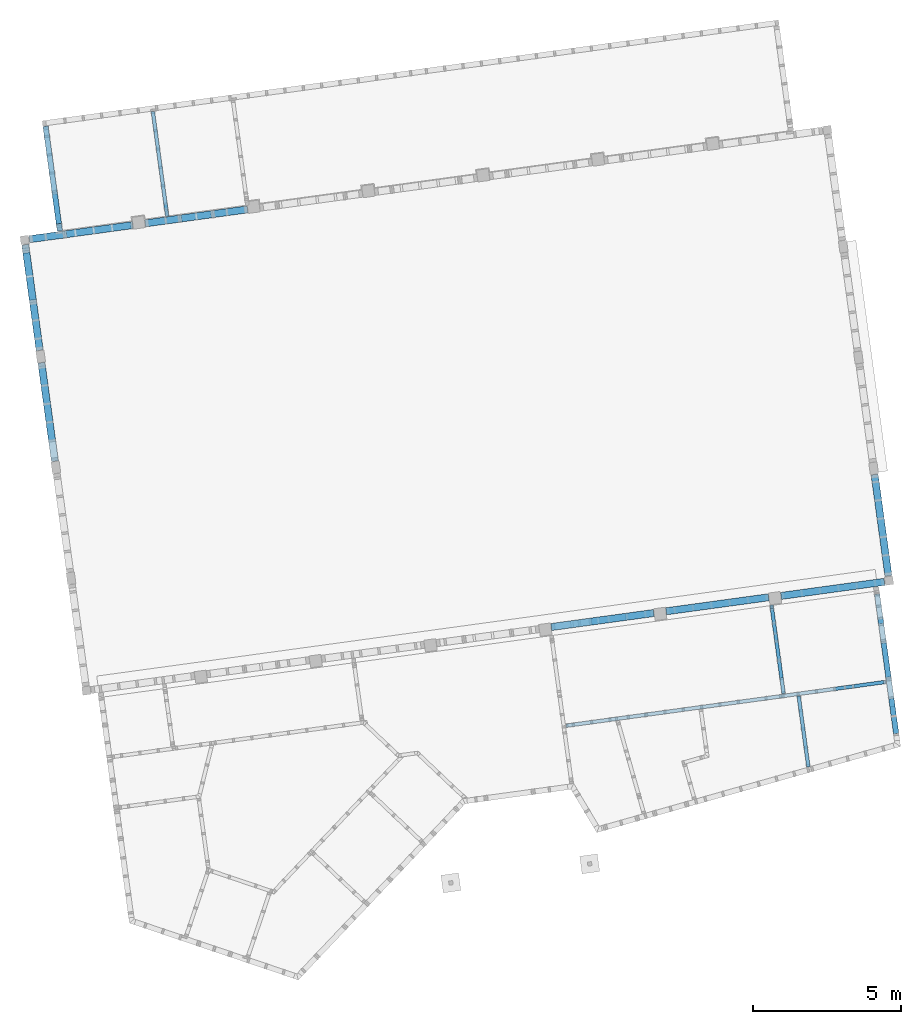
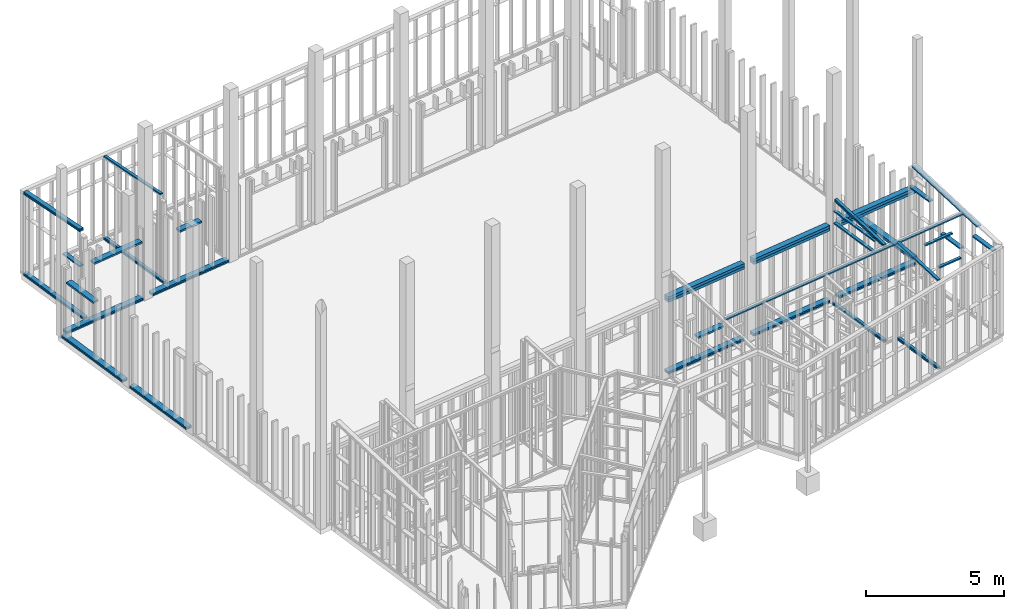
# One storey, part 12 of 24: 50 beams.
"""IFC2X3 building model written with IfcOpenShell, lengths in metres."""

from ifc_helpers import new_model, entity, si_unit, converted_unit, derived_unit, money_unit, direction, frame, frame_2d, origin_with_axes, place, context, subcontext, project, spatial, rectangle, extrude, clip, halfspace, material, type_object, element, save


model = new_model("IFC2X3")

# Units and contexts
model_context = context("Model", 3, precision=1e-05, world=origin_with_axes(), true_north=direction((0.0, 1.0)))
body_context = subcontext(model_context, "Body", "Model", "MODEL_VIEW")
ifc_project = project(units=[si_unit("LENGTHUNIT", "METRE"), si_unit("AREAUNIT", "SQUARE_METRE"), si_unit("VOLUMEUNIT", "CUBIC_METRE"), converted_unit("PLANEANGLEUNIT", "DEGREE", entity("IfcPlaneAngleMeasure", 0.0174532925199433), si_unit("PLANEANGLEUNIT", "RADIAN"), dimensions=[0, 0, 0, 0, 0, 0, 0]), money_unit("EUR"), converted_unit("TIMEUNIT", "Year", entity("IfcTimeMeasure", 31557600.0), si_unit("TIMEUNIT", "SECOND"), dimensions=[0, 0, 1, 0, 0, 0, 0]), si_unit("MASSUNIT", "GRAM", prefix="KILO"), si_unit("THERMODYNAMICTEMPERATUREUNIT", "DEGREE_CELSIUS"), si_unit("LUMINOUSINTENSITYUNIT", "LUMEN"), si_unit("ENERGYUNIT", "JOULE", prefix="MEGA"), derived_unit("THERMALCONDUCTANCEUNIT", [(si_unit("POWERUNIT", "WATT"), 1), (si_unit("LENGTHUNIT", "METRE"), -1), (si_unit("THERMODYNAMICTEMPERATUREUNIT", "KELVIN"), -1)]), derived_unit("SPECIFICHEATCAPACITYUNIT", [(si_unit("ENERGYUNIT", "JOULE"), 1), (si_unit("MASSUNIT", "GRAM", prefix="KILO"), -1), (si_unit("THERMODYNAMICTEMPERATUREUNIT", "KELVIN"), -1)]), derived_unit("MASSDENSITYUNIT", [(si_unit("MASSUNIT", "GRAM", prefix="KILO"), 1), (si_unit("VOLUMEUNIT", "CUBIC_METRE"), -1)])], contexts=[model_context])

# Site, building, storey
site_placement = place(None, origin_with_axes())
site = spatial("IfcSite", under=ifc_project, at=site_placement, Name="Gelände", CompositionType="ELEMENT")
building_placement = place(site_placement, origin_with_axes())
building = spatial("IfcBuilding", under=site, at=building_placement, Name="Gebäude", CompositionType="ELEMENT")
storey_placement = place(building_placement, origin_with_axes())
storey = spatial("IfcBuildingStorey", under=building, at=storey_placement, Name="EG", CompositionType="ELEMENT", Elevation=0.0)

# Beams
ifc_material_1 = material(Name="Bauholz")
beam_type_1 = type_object("IfcBeamType", Name="Bauholz 120 x 60", PredefinedType="NOTDEFINED")
beam_1_placement = place(storey_placement, frame((113.1367541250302, -150.7817558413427, 3.450580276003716), z_axis=(0.0, 0.0, 1.0), x_axis=(-0.1357111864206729, 0.9907484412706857, 0.0)))
element("IfcBeam", 1, at=beam_1_placement, inside=storey, type_object=beam_type_1, material=ifc_material_1, Name="Unterzug-021", context=body_context, shape_type="SweptSolid", body=[
    extrude(rectangle(XDim=0.06, YDim=0.12, at=frame_2d((-0.03, 0.0), x_axis=(1.0, 0.0))), frame((0.0, 0.0, 0.0), z_axis=(0.0, 1.0, 0.0), x_axis=(0.0, 0.0, 1.0)), (0.0, 0.0, 1.0), 1.252195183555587),
])
beam_2_placement = place(storey_placement, frame((113.5160197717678, -150.7298199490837, 2.195), z_axis=(0.0, 0.0, 1.0), x_axis=(-0.1357111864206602, 0.9907484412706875, 0.0)))
element("IfcBeam", 2, at=beam_2_placement, inside=storey, type_object=beam_type_1, material=ifc_material_1, Name="Unterzug-021", context=body_context, shape_type="SweptSolid", body=[
    extrude(rectangle(XDim=0.06, YDim=0.12, at=frame_2d((-0.03, 0.0), x_axis=(1.0, 0.0))), frame((0.0, 0.0, 0.0), z_axis=(0.0, 1.0, 0.0), x_axis=(0.0, 0.0, 1.0)), (0.0, 0.0, 1.0), 1.010000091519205),
])
beam_3_placement = place(storey_placement, frame((109.7386471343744, -148.1846242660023, 4.044563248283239), z_axis=(0.0, 0.0, 1.0), x_axis=(-0.9907486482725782, -0.1357096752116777, 0.0)))
element("IfcBeam", 3, at=beam_3_placement, inside=storey, type_object=beam_type_1, material=ifc_material_1, Name="Unterzug-021", context=body_context, shape_type="SweptSolid", body=[
    extrude(rectangle(XDim=0.06, YDim=0.12, at=frame_2d((-0.03, 0.0), x_axis=(1.0, 0.0))), frame((0.0, 0.0, 0.0), z_axis=(0.0, 1.0, 0.0), x_axis=(0.0, 0.0, 1.0)), (0.0, 0.0, 1.0), 2.414999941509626),
])
beam_4_placement = place(storey_placement, frame((109.7386471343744, -148.1846242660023, 3.512563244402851), z_axis=(0.0, 0.0, 1.0), x_axis=(-0.9907486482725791, -0.1357096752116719, 0.0)))
element("IfcBeam", 4, at=beam_4_placement, inside=storey, type_object=beam_type_1, material=ifc_material_1, Name="Unterzug-021", context=body_context, shape_type="SweptSolid", body=[
    extrude(rectangle(XDim=0.06, YDim=0.12, at=frame_2d((-0.03, 0.0), x_axis=(1.0, 0.0))), frame((0.0, 0.0, 0.0), z_axis=(0.0, 1.0, 0.0), x_axis=(0.0, 0.0, 1.0)), (0.0, 0.0, 1.0), 2.414999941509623),
])
beam_5_placement = place(storey_placement, frame((109.7305045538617, -148.1251793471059, -0.04300000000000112), z_axis=(0.0, 0.0, 1.0), x_axis=(-0.9907486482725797, -0.1357096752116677, 0.0)))
element("IfcBeam", 5, at=beam_5_placement, inside=storey, type_object=beam_type_1, material=ifc_material_1, Name="Unterzug-021", context=body_context, shape_type="SweptSolid", body=[
    extrude(rectangle(XDim=0.06, YDim=0.12, at=frame_2d((-0.03, 0.0), x_axis=(1.0, 0.0))), frame((0.0, 0.0, 0.0), z_axis=(0.0, 1.0, 0.0), x_axis=(0.0, 0.0, 1.0)), (0.0, 0.0, 1.0), 3.019265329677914),
])
beam_6_placement = place(storey_placement, frame((110.6487401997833, -151.1982606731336, -0.04299999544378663), z_axis=(0.0, 0.0, 1.0), x_axis=(-0.9907486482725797, -0.1357096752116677, 0.0)))
element("IfcBeam", 6, at=beam_6_placement, inside=storey, type_object=beam_type_1, material=ifc_material_1, Name="Unterzug-021", context=body_context, shape_type="SweptSolid", body=[
    extrude(rectangle(XDim=0.06, YDim=0.12, at=frame_2d((-0.03, 0.0), x_axis=(1.0, 0.0))), frame((0.0, 0.0, 0.0), z_axis=(0.0, 1.0, 0.0), x_axis=(0.0, 0.0, 1.0)), (0.0, 0.0, 1.0), 2.413919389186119),
])
beam_7_placement = place(storey_placement, frame((110.6485577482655, -151.1969286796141, 4.156226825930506), z_axis=(0.0, 0.0, 1.0), x_axis=(-0.9907486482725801, -0.1357096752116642, 0.0)))
element("IfcBeam", 7, at=beam_7_placement, inside=storey, type_object=beam_type_1, material=ifc_material_1, Name="Unterzug-021", context=body_context, shape_type="Clipping", body=[
    clip(clip(extrude(rectangle(XDim=0.06, YDim=0.12, at=frame_2d((-0.03, 0.0), x_axis=(1.0, 0.0))), frame((0.0, -0.02361845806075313, 0.003319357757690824), z_axis=(0.0, 0.9902680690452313, -0.1391730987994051), x_axis=(0.0, 0.1391730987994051, 0.9902680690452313)), (0.0, 0.0, 1.0), 2.487701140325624), halfspace(frame((0.0, 0.0, 0.0), z_axis=(0.0, 1.0, 0.0), x_axis=(0.0, 0.0, 1.0)), True)), halfspace(frame((0.0, 2.416254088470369, 0.0), z_axis=(0.0, -1.0, 0.0), x_axis=(0.0, 0.0, -1.0)), True)),
])
beam_8_placement = place(storey_placement, frame((89.32227157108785, -134.9953332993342, 0.04999999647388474), z_axis=(0.0, 0.0, 1.0), x_axis=(0.99074844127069, 0.1357111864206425, 0.0)))
element("IfcBeam", 8, at=beam_8_placement, inside=storey, type_object=beam_type_1, material=ifc_material_1, Name="Unterzug-021", context=body_context, shape_type="SweptSolid", body=[
    extrude(rectangle(XDim=0.06, YDim=0.12, at=frame_2d((-0.03, 0.0), x_axis=(1.0, 0.0))), frame((0.0, 0.0, 0.0), z_axis=(0.0, 1.0, 0.0), x_axis=(0.0, 0.0, 1.0)), (0.0, 0.0, 1.0), 3.572499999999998),
])
ifc_material_2 = material(Name="Holz, Bauholz")
beam_type_2 = type_object("IfcBeamType", Name="Holz, Bauholz 240 x 60", PredefinedType="NOTDEFINED")
beam_9_placement = place(storey_placement, frame((113.5434566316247, -147.3379357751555, -0.02800000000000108), z_axis=(0.0, 0.0, 1.0), x_axis=(-0.1357111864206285, 0.9907484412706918, 0.0)))
element("IfcBeam", 9, at=beam_9_placement, inside=storey, type_object=beam_type_2, material=ifc_material_2, Name="Unterzug-021", context=body_context, shape_type="SweptSolid", body=[
    extrude(rectangle(XDim=0.06, YDim=0.24, at=frame_2d((-0.03, 0.0), x_axis=(1.0, 0.0))), frame((0.0, 0.0, 0.0), z_axis=(0.0, 1.0, 0.0), x_axis=(0.0, 0.0, 1.0)), (0.0, 0.0, 1.0), 3.524285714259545),
])
beam_10_placement = place(storey_placement, frame((85.07389866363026, -139.9386180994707, -0.08800000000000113), z_axis=(0.0, 0.0, 1.0), x_axis=(-0.9907484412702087, -0.1357111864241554, 0.0)))
element("IfcBeam", 10, at=beam_10_placement, inside=storey, type_object=beam_type_2, material=ifc_material_2, Name="Unterzug-021", context=body_context, shape_type="SweptSolid", body=[
    extrude(rectangle(XDim=0.06, YDim=0.24, at=frame_2d((-0.03, 0.0), x_axis=(1.0, 0.0))), frame((0.0, 0.0, 0.0), z_axis=(0.0, 1.0, 0.0), x_axis=(0.0, 0.0, 1.0)), (0.0, 0.0, 1.0), 3.359999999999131),
])
beam_11_placement = place(storey_placement, frame((92.03606593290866, -134.7598625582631, -0.08800000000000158), z_axis=(0.0, 0.0, 1.0), x_axis=(-0.1357111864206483, 0.9907484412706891, 0.0)))
element("IfcBeam", 11, at=beam_11_placement, inside=storey, type_object=beam_type_2, material=ifc_material_2, Name="Unterzug-021", context=body_context, shape_type="SweptSolid", body=[
    extrude(rectangle(XDim=0.06, YDim=0.24, at=frame_2d((-0.03, 0.0), x_axis=(1.0, 0.0))), frame((0.0, 0.0, 0.0), z_axis=(0.0, 1.0, 0.0), x_axis=(0.0, 0.0, 1.0)), (0.0, 0.0, 1.0), 3.494285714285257),
])
beam_12_placement = place(storey_placement, frame((88.15799346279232, -135.2910749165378, -0.08800000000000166), z_axis=(0.0, 0.0, 1.0), x_axis=(-0.1357111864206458, 0.9907484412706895, 0.0)))
element("IfcBeam", 12, at=beam_12_placement, inside=storey, type_object=beam_type_2, material=ifc_material_2, Name="Unterzug-021", context=body_context, shape_type="SweptSolid", body=[
    extrude(rectangle(XDim=0.06, YDim=0.24, at=frame_2d((-0.03, 0.0), x_axis=(1.0, 0.0))), frame((0.0, 0.0, 0.0), z_axis=(0.0, 1.0, 0.0), x_axis=(0.0, 0.0, 1.0)), (0.0, 0.0, 1.0), 3.524285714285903),
])
beam_13_placement = place(storey_placement, frame((105.7558928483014, -148.3920474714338, -0.08800000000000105), z_axis=(0.0, 0.0, 1.0), x_axis=(-0.1357111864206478, 0.9907484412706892, 0.0)))
element("IfcBeam", 13, at=beam_13_placement, inside=storey, type_object=beam_type_2, material=ifc_material_2, Name="Unterzug-021", context=body_context, shape_type="SweptSolid", body=[
    extrude(rectangle(XDim=0.06, YDim=0.24, at=frame_2d((-0.03, 0.0), x_axis=(1.0, 0.0))), frame((0.0, 0.0, 0.0), z_axis=(0.0, 1.0, 0.0), x_axis=(0.0, 0.0, 1.0)), (0.0, 0.0, 1.0), 3.494285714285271),
])
beam_14_placement = place(storey_placement, frame((109.6337394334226, -147.8608660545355, -0.08800000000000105), z_axis=(0.0, 0.0, 1.0), x_axis=(-0.1357111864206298, 0.9907484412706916, 0.0)))
element("IfcBeam", 14, at=beam_14_placement, inside=storey, type_object=beam_type_2, material=ifc_material_2, Name="Unterzug-021", context=body_context, shape_type="SweptSolid", body=[
    extrude(rectangle(XDim=0.06, YDim=0.24, at=frame_2d((-0.03, 0.0), x_axis=(1.0, 0.0))), frame((0.0, 0.0, 0.0), z_axis=(0.0, 1.0, 0.0), x_axis=(0.0, 0.0, 1.0)), (0.0, 0.0, 1.0), 3.494057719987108),
])
beam_15_placement = place(storey_placement, frame((85.01689996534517, -139.5225037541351, -0.08800000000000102), z_axis=(0.0, 0.0, 1.0), x_axis=(0.99074844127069, 0.1357111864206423, 0.0)))
element("IfcBeam", 15, at=beam_15_placement, inside=storey, type_object=beam_type_2, material=ifc_material_2, Name="Unterzug-021", context=body_context, shape_type="SweptSolid", body=[
    extrude(rectangle(XDim=0.06, YDim=0.24, at=frame_2d((-0.03, 0.0), x_axis=(1.0, 0.0))), frame((0.0, 0.0, 0.0), z_axis=(0.0, 1.0, 0.0), x_axis=(0.0, 0.0, 1.0)), (0.0, 0.0, 1.0), 3.604000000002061),
])
beam_type_3 = type_object("IfcBeamType", Name="Bauholz 240 x 60", PredefinedType="NOTDEFINED")
beam_16_placement = place(storey_placement, frame((113.5434566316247, -147.3379357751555, -0.08800000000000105), z_axis=(0.0, 0.0, 1.0), x_axis=(-0.1357111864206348, 0.990748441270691, 0.0)))
element("IfcBeam", 16, at=beam_16_placement, inside=storey, type_object=beam_type_3, material=ifc_material_1, Name="Unterzug-021", context=body_context, shape_type="SweptSolid", body=[
    extrude(rectangle(XDim=0.06, YDim=0.24, at=frame_2d((-0.03, 0.0), x_axis=(1.0, 0.0))), frame((0.0, 0.0, 0.0), z_axis=(0.0, 1.0, 0.0), x_axis=(0.0, 0.0, 1.0)), (0.0, 0.0, 1.0), 3.524285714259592),
])
beam_17_placement = place(storey_placement, frame((88.15799346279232, -135.2910749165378, -0.02800000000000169), z_axis=(0.0, 0.0, 1.0), x_axis=(-0.1357111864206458, 0.9907484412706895, 0.0)))
element("IfcBeam", 17, at=beam_17_placement, inside=storey, type_object=beam_type_3, material=ifc_material_1, Name="Unterzug-021", context=body_context, shape_type="SweptSolid", body=[
    extrude(rectangle(XDim=0.06, YDim=0.24, at=frame_2d((-0.03, 0.0), x_axis=(1.0, 0.0))), frame((0.0, 0.0, 0.0), z_axis=(0.0, 1.0, 0.0), x_axis=(0.0, 0.0, 1.0)), (0.0, 0.0, 1.0), 3.524285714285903),
])
beam_18_placement = place(storey_placement, frame((92.03606593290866, -134.7598625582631, -0.0280000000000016), z_axis=(0.0, 0.0, 1.0), x_axis=(-0.1357111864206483, 0.9907484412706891, 0.0)))
element("IfcBeam", 18, at=beam_18_placement, inside=storey, type_object=beam_type_3, material=ifc_material_1, Name="Unterzug-021", context=body_context, shape_type="SweptSolid", body=[
    extrude(rectangle(XDim=0.06, YDim=0.24, at=frame_2d((-0.03, 0.0), x_axis=(1.0, 0.0))), frame((0.0, 0.0, 0.0), z_axis=(0.0, 1.0, 0.0), x_axis=(0.0, 0.0, 1.0)), (0.0, 0.0, 1.0), 3.494285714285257),
])
beam_19_placement = place(storey_placement, frame((109.6337394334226, -147.8608660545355, -0.02800000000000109), z_axis=(0.0, 0.0, 1.0), x_axis=(-0.1357111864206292, 0.9907484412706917, 0.0)))
element("IfcBeam", 19, at=beam_19_placement, inside=storey, type_object=beam_type_3, material=ifc_material_1, Name="Unterzug-021", context=body_context, shape_type="SweptSolid", body=[
    extrude(rectangle(XDim=0.06, YDim=0.24, at=frame_2d((-0.03, 0.0), x_axis=(1.0, 0.0))), frame((0.0, 0.0, 0.0), z_axis=(0.0, 1.0, 0.0), x_axis=(0.0, 0.0, 1.0)), (0.0, 0.0, 1.0), 3.494057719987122),
])
beam_20_placement = place(storey_placement, frame((105.7558928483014, -148.3920474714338, -0.02800000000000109), z_axis=(0.0, 0.0, 1.0), x_axis=(-0.1357111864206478, 0.9907484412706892, 0.0)))
element("IfcBeam", 20, at=beam_20_placement, inside=storey, type_object=beam_type_3, material=ifc_material_1, Name="Unterzug-021", context=body_context, shape_type="SweptSolid", body=[
    extrude(rectangle(XDim=0.06, YDim=0.24, at=frame_2d((-0.03, 0.0), x_axis=(1.0, 0.0))), frame((0.0, 0.0, 0.0), z_axis=(0.0, 1.0, 0.0), x_axis=(0.0, 0.0, 1.0)), (0.0, 0.0, 1.0), 3.494285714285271),
])
ifc_material_3 = material(Name="Holz, Bauholz-hart")
beam_type_4 = type_object("IfcBeamType", Name="Holz, Bauholz-hart 120 x 60", PredefinedType="NOTDEFINED")
beam_21_placement = place(storey_placement, frame((109.745838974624, -148.2371283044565, 4.524979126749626), z_axis=(0.0, 0.0, 1.0), x_axis=(-0.9907486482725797, -0.1357096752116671, 0.0)))
element("IfcBeam", 21, at=beam_21_placement, inside=storey, type_object=beam_type_4, material=ifc_material_3, Name="Unterzug-021", context=body_context, shape_type="Clipping", body=[
    clip(clip(extrude(rectangle(XDim=0.06, YDim=0.12, at=frame_2d((-0.03, 0.0), x_axis=(1.0, 0.0))), frame((0.0, -0.02361845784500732, 0.003319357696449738), z_axis=(0.0, 0.9902680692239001, -0.1391730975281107), x_axis=(0.0, 0.1391730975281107, 0.9902680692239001)), (0.0, 0.0, 1.0), 2.983602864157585), halfspace(frame((0.0, 0.0, 0.0), z_axis=(0.0, 1.0, 0.0), x_axis=(0.0, 0.0, 1.0)), True)), halfspace(frame((0.0, 2.907329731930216, 0.0), z_axis=(0.0, -1.0, 0.0), x_axis=(0.0, 0.0, -1.0)), True)),
])
beam_type_5 = type_object("IfcBeamType", Name="Holz, Bauholz 120 x 60", PredefinedType="NOTDEFINED")
beam_22_placement = place(storey_placement, frame((109.7305045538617, -148.1251793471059, -0.1030000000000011), z_axis=(0.0, 0.0, 1.0), x_axis=(-0.9907486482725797, -0.1357096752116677, 0.0)))
element("IfcBeam", 22, at=beam_22_placement, inside=storey, type_object=beam_type_5, material=ifc_material_2, Name="Unterzug-021", context=body_context, shape_type="SweptSolid", body=[
    extrude(rectangle(XDim=0.06, YDim=0.12, at=frame_2d((-0.03, 0.0), x_axis=(1.0, 0.0))), frame((0.0, 0.0, 0.0), z_axis=(0.0, 1.0, 0.0), x_axis=(0.0, 0.0, 1.0)), (0.0, 0.0, 1.0), 3.019265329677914),
])
beam_23_placement = place(storey_placement, frame((109.7456820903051, -148.235982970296, 4.585731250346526), z_axis=(0.0, 0.0, 1.0), x_axis=(-0.99074864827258, -0.1357096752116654, 0.0)))
element("IfcBeam", 23, at=beam_23_placement, inside=storey, type_object=beam_type_5, material=ifc_material_2, Name="Unterzug-021", context=body_context, shape_type="Clipping", body=[
    clip(clip(extrude(rectangle(XDim=0.06, YDim=0.12, at=frame_2d((-0.03, 0.0), x_axis=(1.0, 0.0))), frame((0.0, -0.02361845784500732, 0.003319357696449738), z_axis=(0.0, 0.9902680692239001, -0.1391730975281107), x_axis=(0.0, 0.1391730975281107, 0.9902680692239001)), (0.0, 0.0, 1.0), 2.983701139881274), halfspace(frame((0.0, 0.0, 0.0), z_axis=(0.0, 1.0, 0.0), x_axis=(0.0, 0.0, 1.0)), True)), halfspace(frame((0.0, 2.907427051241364, 0.0), z_axis=(0.0, -1.0, 0.0), x_axis=(0.0, 0.0, -1.0)), True)),
])
beam_24_placement = place(storey_placement, frame((110.6487401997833, -151.1982606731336, -0.1029999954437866), z_axis=(0.0, 0.0, 1.0), x_axis=(-0.9907486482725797, -0.1357096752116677, 0.0)))
element("IfcBeam", 24, at=beam_24_placement, inside=storey, type_object=beam_type_5, material=ifc_material_2, Name="Unterzug-021", context=body_context, shape_type="SweptSolid", body=[
    extrude(rectangle(XDim=0.06, YDim=0.12, at=frame_2d((-0.03, 0.0), x_axis=(1.0, 0.0))), frame((0.0, 0.0, 0.0), z_axis=(0.0, 1.0, 0.0), x_axis=(0.0, 0.0, 1.0)), (0.0, 0.0, 1.0), 2.413919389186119),
])
beam_25_placement = place(storey_placement, frame((89.32227157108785, -134.9953332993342, -0.01000000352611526), z_axis=(0.0, 0.0, 1.0), x_axis=(0.99074844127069, 0.1357111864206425, 0.0)))
element("IfcBeam", 25, at=beam_25_placement, inside=storey, type_object=beam_type_5, material=ifc_material_2, Name="Unterzug-021", context=body_context, shape_type="SweptSolid", body=[
    extrude(rectangle(XDim=0.06, YDim=0.12, at=frame_2d((-0.03, 0.0), x_axis=(1.0, 0.0))), frame((0.0, 0.0, 0.0), z_axis=(0.0, 1.0, 0.0), x_axis=(0.0, 0.0, 1.0)), (0.0, 0.0, 1.0), 3.572499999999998),
])
beam_26_placement = place(storey_placement, frame((89.29085413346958, -134.7659728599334, 3.814135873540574), z_axis=(0.0, 0.0, 1.0), x_axis=(0.9907484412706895, 0.1357111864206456, 0.0)))
element("IfcBeam", 26, at=beam_26_placement, inside=storey, type_object=beam_type_5, material=ifc_material_2, Name="Unterzug-021", context=body_context, shape_type="Clipping", body=[
    clip(clip(extrude(rectangle(XDim=0.06, YDim=0.12, at=frame_2d((-0.03, 0.0), x_axis=(1.0, 0.0))), frame((0.0, -0.008881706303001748, 0.0004654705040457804), z_axis=(0.0, 0.9986295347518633, -0.05233595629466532), x_axis=(0.0, 0.05233595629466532, 0.9986295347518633)), (0.0, 0.0, 1.0), 3.364787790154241), halfspace(frame((0.0, 0.0, 0.0), z_axis=(0.0, 1.0, 0.0), x_axis=(0.0, 0.0, 1.0)), True)), halfspace(frame((0.0, 3.342413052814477, 0.0), z_axis=(0.0, -1.0, 0.0), x_axis=(0.0, 0.0, -1.0)), True)),
])
beam_27_placement = place(storey_placement, frame((113.5952773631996, -150.7189480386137, 4.106578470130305), z_axis=(0.0, 0.0, 1.0), x_axis=(-0.1357111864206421, 0.99074844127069, 0.0)))
element("IfcBeam", 27, at=beam_27_placement, inside=storey, type_object=beam_type_5, material=ifc_material_2, Name="Unterzug-021", context=body_context, shape_type="SweptSolid", body=[
    extrude(rectangle(XDim=0.06, YDim=0.12, at=frame_2d((-0.03, 0.0), x_axis=(1.0, 0.0))), frame((0.0, 0.0, 0.0), z_axis=(0.0, 1.0, 0.0), x_axis=(0.0, 0.0, 1.0)), (0.0, 0.0, 1.0), 10.90632528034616),
])
beam_type_6 = type_object("IfcBeamType", Name="Holz, Bauholz 240 x 120", PredefinedType="NOTDEFINED")
beam_28_placement = place(storey_placement, frame((109.6337394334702, -147.860866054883, 3.272000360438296), z_axis=(0.0, 0.0, 1.0), x_axis=(-0.1357111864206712, 0.9907484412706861, 0.0)))
element("IfcBeam", 28, at=beam_28_placement, inside=storey, type_object=beam_type_6, material=ifc_material_2, Name="Unterzug-021", context=body_context, shape_type="SweptSolid", body=[
    extrude(rectangle(XDim=0.1200003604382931, YDim=0.24, at=frame_2d((-0.06000018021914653, 0.0), x_axis=(1.0, 0.0))), frame((0.0, 0.0, 0.0), z_axis=(0.0, 1.0, 0.0), x_axis=(0.0, 0.0, 1.0)), (0.0, 0.0, 1.0), 3.494285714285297),
])
beam_29_placement = place(storey_placement, frame((113.5434566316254, -147.3379357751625, 3.272000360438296), z_axis=(0.0, 0.0, 1.0), x_axis=(-0.1357111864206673, 0.9907484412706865, 0.0)))
element("IfcBeam", 29, at=beam_29_placement, inside=storey, type_object=beam_type_6, material=ifc_material_2, Name="Unterzug-021", context=body_context, shape_type="SweptSolid", body=[
    extrude(rectangle(XDim=0.1200003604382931, YDim=0.24, at=frame_2d((-0.06000018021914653, 0.0), x_axis=(1.0, 0.0))), frame((0.0, 0.0, 0.0), z_axis=(0.0, 1.0, 0.0), x_axis=(0.0, 0.0, 1.0)), (0.0, 0.0, 1.0), 3.524285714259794),
])
beam_30_placement = place(storey_placement, frame((113.2107155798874, -143.7150754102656, -0.02800000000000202), z_axis=(0.0, 0.0, 1.0), x_axis=(-0.9907484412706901, -0.135711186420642, 0.0)))
element("IfcBeam", 30, at=beam_30_placement, inside=storey, type_object=beam_type_6, material=ifc_material_2, Name="Unterzug-021", context=body_context, shape_type="SweptSolid", body=[
    extrude(rectangle(XDim=0.1199999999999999, YDim=0.24, at=frame_2d((-0.05999999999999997, 0.0), x_axis=(1.0, 0.0))), frame((0.0, 0.0, 0.0), z_axis=(0.0, 1.0, 0.0), x_axis=(0.0, 0.0, 1.0)), (0.0, 0.0, 1.0), 3.45999994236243),
])
beam_31_placement = place(storey_placement, frame((105.7558928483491, -148.3920474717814, 3.272000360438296), z_axis=(0.0, 0.0, 1.0), x_axis=(-0.1357111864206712, 0.9907484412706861, 0.0)))
element("IfcBeam", 31, at=beam_31_placement, inside=storey, type_object=beam_type_6, material=ifc_material_2, Name="Unterzug-021", context=body_context, shape_type="SweptSolid", body=[
    extrude(rectangle(XDim=0.1200003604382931, YDim=0.24, at=frame_2d((-0.06000018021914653, 0.0), x_axis=(1.0, 0.0))), frame((0.0, 0.0, 0.0), z_axis=(0.0, 1.0, 0.0), x_axis=(0.0, 0.0, 1.0)), (0.0, 0.0, 1.0), 3.494285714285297),
])
beam_type_7 = type_object("IfcBeamType", Name="Holz, Bauholz-hart 240 x 60", PredefinedType="NOTDEFINED")
beam_32_placement = place(storey_placement, frame((85.07389866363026, -139.9386180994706, -0.02800000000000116), z_axis=(0.0, 0.0, 1.0), x_axis=(-0.9907484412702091, -0.135711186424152, 0.0)))
element("IfcBeam", 32, at=beam_32_placement, inside=storey, type_object=beam_type_7, material=ifc_material_3, Name="Unterzug-021", context=body_context, shape_type="SweptSolid", body=[
    extrude(rectangle(XDim=0.06, YDim=0.24, at=frame_2d((-0.03, 0.0), x_axis=(1.0, 0.0))), frame((0.0, 0.0, 0.0), z_axis=(0.0, 1.0, 0.0), x_axis=(0.0, 0.0, 1.0)), (0.0, 0.0, 1.0), 3.359999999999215),
])
beam_33_placement = place(storey_placement, frame((85.01689996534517, -139.5225037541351, -0.02800000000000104), z_axis=(0.0, 0.0, 1.0), x_axis=(0.99074844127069, 0.1357111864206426, 0.0)))
element("IfcBeam", 33, at=beam_33_placement, inside=storey, type_object=beam_type_7, material=ifc_material_3, Name="Unterzug-021", context=body_context, shape_type="SweptSolid", body=[
    extrude(rectangle(XDim=0.06, YDim=0.24, at=frame_2d((-0.03, 0.0), x_axis=(1.0, 0.0))), frame((0.0, 0.0, 0.0), z_axis=(0.0, 1.0, 0.0), x_axis=(0.0, 0.0, 1.0)), (0.0, 0.0, 1.0), 3.604000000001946),
])
beam_34_placement = place(storey_placement, frame((113.2107155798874, -143.7150754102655, -0.02800000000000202), z_axis=(0.0, 0.0, 1.0), x_axis=(-0.9907484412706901, -0.135711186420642, 0.0)))
element("IfcBeam", 34, at=beam_34_placement, inside=storey, type_object=beam_type_7, material=ifc_material_3, Name="Unterzug-021", context=body_context, shape_type="SweptSolid", body=[
    extrude(rectangle(XDim=0.05999999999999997, YDim=0.24, at=frame_2d((-0.02999999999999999, 0.0), x_axis=(1.0, 0.0))), frame((0.0, 0.0, 0.0), z_axis=(0.0, 1.0, 0.0), x_axis=(0.0, 0.0, 1.0)), (0.0, 0.0, 1.0), 3.45999994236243),
])
beam_type_8 = type_object("IfcBeamType", Name="Holz, Bauholz-hart 240 x 120", PredefinedType="NOTDEFINED")
beam_35_placement = place(storey_placement, frame((113.5434566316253, -147.3379357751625, 3.152000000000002), z_axis=(0.0, 0.0, 1.0), x_axis=(-0.1357111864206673, 0.9907484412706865, 0.0)))
element("IfcBeam", 35, at=beam_35_placement, inside=storey, type_object=beam_type_8, material=ifc_material_3, Name="Unterzug-021", context=body_context, shape_type="SweptSolid", body=[
    extrude(rectangle(XDim=0.1200003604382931, YDim=0.24, at=frame_2d((-0.06000018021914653, 0.0), x_axis=(1.0, 0.0))), frame((0.0, 0.0, 0.0), z_axis=(0.0, 1.0, 0.0), x_axis=(0.0, 0.0, 1.0)), (0.0, 0.0, 1.0), 3.524285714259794),
])
for number, where, z_axis, x_axis, name in (
    (36, (105.7558928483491, -148.3920474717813, 3.152000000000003), (0.0, 0.0, 1.0), (-0.1357111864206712, 0.9907484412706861, 0.0), "Unterzug-021"),
    (37, (109.6337394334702, -147.860866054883, 3.152000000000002), (0.0, 0.0, 1.0), (-0.1357111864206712, 0.9907484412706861, 0.0), "Unterzug-021"),
):
    element("IfcBeam", number, at=place(storey_placement, frame(where, z_axis=z_axis, x_axis=x_axis)), inside=storey, type_object=beam_type_8, material=ifc_material_3, Name=name, context=body_context, shape_type="SweptSolid", body=[
        extrude(rectangle(XDim=0.1200003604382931, YDim=0.24, at=frame_2d((-0.06000018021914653, 0.0), x_axis=(1.0, 0.0))), frame((0.0, 0.0, 0.0), z_axis=(0.0, 1.0, 0.0), x_axis=(0.0, 0.0, 1.0)), (0.0, 0.0, 1.0), 3.494285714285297),
    ])
beam_type_9 = type_object("IfcBeamType", Name="Holz, Bauholz 180 x 60", PredefinedType="NOTDEFINED")
beam_36_placement = place(storey_placement, frame((85.2136679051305, -131.9522636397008, -0.01000000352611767), z_axis=(0.0, 0.0, 1.0), x_axis=(-0.9907484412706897, -0.1357111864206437, 0.0)))
element("IfcBeam", 38, at=beam_36_placement, inside=storey, type_object=beam_type_9, material=ifc_material_2, Name="Unterzug-021", context=body_context, shape_type="SweptSolid", body=[
    extrude(rectangle(XDim=0.06, YDim=0.18, at=frame_2d((-0.03, 0.0), x_axis=(1.0, 0.0))), frame((0.0, 0.0, 0.0), z_axis=(0.0, 1.0, 0.0), x_axis=(0.0, 0.0, 1.0)), (0.0, 0.0, 1.0), 3.572499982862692),
])
beam_37_placement = place(storey_placement, frame((85.21353237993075, -131.951274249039, 3.63898926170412), z_axis=(0.0, 0.0, 1.0), x_axis=(-0.9907484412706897, -0.1357111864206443, 0.0)))
element("IfcBeam", 39, at=beam_37_placement, inside=storey, type_object=beam_type_9, material=ifc_material_2, Name="Unterzug-021", context=body_context, shape_type="Clipping", body=[
    clip(clip(extrude(rectangle(XDim=0.06, YDim=0.18, at=frame_2d((-0.03, 0.0), x_axis=(1.0, 0.0))), frame((0.0, -0.01332255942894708, -0.0006982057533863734), z_axis=(0.0, 0.9986295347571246, 0.05233595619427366), x_axis=(0.0, -0.05233595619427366, 0.9986295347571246)), (0.0, 0.0, 1.0), 3.355681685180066), halfspace(frame((0.0, 0.0, 0.0), z_axis=(0.0, 1.0, 0.0), x_axis=(0.0, 0.0, 1.0)), True)), halfspace(frame((0.0, 3.324437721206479, 0.0), z_axis=(0.0, -1.0, 0.0), x_axis=(0.0, 0.0, -1.0)), True)),
])
beam_type_10 = type_object("IfcBeamType", Name="Bauholz 180 x 60", PredefinedType="NOTDEFINED")
beam_38_placement = place(storey_placement, frame((113.5218634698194, -149.4092947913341, 2.46), z_axis=(0.0, 0.0, 1.0), x_axis=(-0.9907484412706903, -0.1357111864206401, 0.0)))
element("IfcBeam", 40, at=beam_38_placement, inside=storey, type_object=beam_type_10, material=ifc_material_1, Name="Unterzug-021", context=body_context, shape_type="SweptSolid", body=[
    extrude(rectangle(XDim=0.06, YDim=0.18, at=frame_2d((-0.03, 0.0), x_axis=(1.0, 0.0))), frame((0.0, 0.0, 0.0), z_axis=(0.0, 1.0, 0.0), x_axis=(0.0, 0.0, 1.0)), (0.0, 0.0, 1.0), 1.159999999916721),
])
beam_39_placement = place(storey_placement, frame((85.21366790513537, -131.9522636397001, 0.0499999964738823), z_axis=(0.0, 0.0, 1.0), x_axis=(-0.9907484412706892, -0.1357111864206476, 0.0)))
element("IfcBeam", 41, at=beam_39_placement, inside=storey, type_object=beam_type_10, material=ifc_material_1, Name="Unterzug-021", context=body_context, shape_type="SweptSolid", body=[
    extrude(rectangle(XDim=0.06, YDim=0.18, at=frame_2d((-0.03, 0.0), x_axis=(1.0, 0.0))), frame((0.0, 0.0, 0.0), z_axis=(0.0, 1.0, 0.0), x_axis=(0.0, 0.0, 1.0)), (0.0, 0.0, 1.0), 3.572499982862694),
])
beam_40_placement = place(storey_placement, frame((85.52750003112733, -134.2433693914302, 2.195), z_axis=(0.0, 0.0, 1.0), x_axis=(-0.9907484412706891, -0.1357111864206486, 0.0)))
element("IfcBeam", 42, at=beam_40_placement, inside=storey, type_object=beam_type_10, material=ifc_material_1, Name="Unterzug-021", context=body_context, shape_type="SweptSolid", body=[
    extrude(rectangle(XDim=0.06, YDim=0.18, at=frame_2d((-0.03, 0.0), x_axis=(1.0, 0.0))), frame((0.0, 0.0, 0.0), z_axis=(0.0, 1.0, 0.0), x_axis=(0.0, 0.0, 1.0)), (0.0, 0.0, 1.0), 1.009999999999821),
])
beam_41_placement = place(storey_placement, frame((113.2783616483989, -147.6316296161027, 3.527928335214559), z_axis=(0.0, 0.0, 1.0), x_axis=(-0.9907484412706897, -0.1357111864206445, 0.0)))
element("IfcBeam", 43, at=beam_41_placement, inside=storey, type_object=beam_type_10, material=ifc_material_1, Name="Unterzug-021", context=body_context, shape_type="SweptSolid", body=[
    extrude(rectangle(XDim=0.06, YDim=0.18, at=frame_2d((-0.03, 0.0), x_axis=(1.0, 0.0))), frame((0.0, 0.0, 0.0), z_axis=(0.0, 1.0, 0.0), x_axis=(0.0, 0.0, 1.0)), (0.0, 0.0, 1.0), 1.129999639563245),
])
beam_42_placement = place(storey_placement, frame((113.7791358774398, -151.2874910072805, 3.414144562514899), z_axis=(0.0, 0.0, 1.0), x_axis=(-0.990748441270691, -0.1357111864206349, 0.0)))
element("IfcBeam", 44, at=beam_42_placement, inside=storey, type_object=beam_type_10, material=ifc_material_1, Name="Unterzug-021", context=body_context, shape_type="SweptSolid", body=[
    extrude(rectangle(XDim=0.06, YDim=0.18, at=frame_2d((-0.03, 0.0), x_axis=(1.0, 0.0))), frame((0.0, 0.0, 0.0), z_axis=(0.0, 1.0, 0.0), x_axis=(0.0, 0.0, 1.0)), (0.0, 0.0, 1.0), 1.190000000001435),
])
beam_type_11 = type_object("IfcBeamType", Name="Holz, Bauholz-hart 240 x 80", PredefinedType="NOTDEFINED")
beam_43_placement = place(storey_placement, frame((84.78347672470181, -137.8184164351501, 2.48), z_axis=(0.0, 0.0, 1.0), x_axis=(0.9907484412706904, 0.1357111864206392, 0.0)))
element("IfcBeam", 45, at=beam_43_placement, inside=storey, type_object=beam_type_11, material=ifc_material_3, Name="Unterzug-021", context=body_context, shape_type="SweptSolid", body=[
    extrude(rectangle(XDim=0.08, YDim=0.24, at=frame_2d((-0.04, 0.0), x_axis=(1.0, 0.0))), frame((0.0, 0.0, 0.0), z_axis=(0.0, 1.0, 0.0), x_axis=(0.0, 0.0, 1.0)), (0.0, 0.0, 1.0), 1.600000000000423),
])
beam_type_12 = type_object("IfcBeamType", Name="Bauholz 240 x 80", PredefinedType="NOTDEFINED")
beam_44_placement = place(storey_placement, frame((88.09854855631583, -135.2992175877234, 2.48), z_axis=(0.0, 0.0, 1.0), x_axis=(-0.1357111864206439, 0.9907484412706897, 0.0)))
element("IfcBeam", 46, at=beam_44_placement, inside=storey, type_object=beam_type_12, material=ifc_material_1, Name="Unterzug-021", context=body_context, shape_type="SweptSolid", body=[
    extrude(rectangle(XDim=0.08, YDim=0.24, at=frame_2d((-0.04, 0.0), x_axis=(1.0, 0.0))), frame((0.0, 0.0, 0.0), z_axis=(0.0, 1.0, 0.0), x_axis=(0.0, 0.0, 1.0)), (0.0, 0.0, 1.0), 2.199999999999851),
])
beam_45_placement = place(storey_placement, frame((90.80541403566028, -134.9284353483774, 2.215), z_axis=(0.0, 0.0, 1.0), x_axis=(-0.1357111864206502, 0.9907484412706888, 0.0)))
element("IfcBeam", 47, at=beam_45_placement, inside=storey, type_object=beam_type_12, material=ifc_material_1, Name="Unterzug-021", context=body_context, shape_type="SweptSolid", body=[
    extrude(rectangle(XDim=0.08, YDim=0.24, at=frame_2d((-0.04, 0.0), x_axis=(1.0, 0.0))), frame((0.0, 0.0, 0.0), z_axis=(0.0, 1.0, 0.0), x_axis=(0.0, 0.0, 1.0)), (0.0, 0.0, 1.0), 1.009998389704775),
])
beam_46_placement = place(storey_placement, frame((104.8104364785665, -148.521554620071, 0.9270000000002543), z_axis=(0.0, 0.0, 1.0), x_axis=(-0.1357111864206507, 0.9907484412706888, 0.0)))
element("IfcBeam", 48, at=beam_46_placement, inside=storey, type_object=beam_type_12, material=ifc_material_1, Name="Unterzug-021", context=body_context, shape_type="SweptSolid", body=[
    extrude(rectangle(XDim=0.08, YDim=0.24, at=frame_2d((-0.04, 0.0), x_axis=(1.0, 0.0))), frame((0.0, 0.0, 0.0), z_axis=(0.0, 1.0, 0.0), x_axis=(0.0, 0.0, 1.0)), (0.0, 0.0, 1.0), 1.170000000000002),
])
ifc_material_4 = material(Name="Holz, Bauholz-hart_UD")
beam_type_13 = type_object("IfcBeamType", Name="Holz, Bauholz-hart_UD 180 x 60", PredefinedType="NOTDEFINED")
beam_47_placement = place(storey_placement, frame((113.2947147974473, -147.7510144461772, 4.524978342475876), z_axis=(0.0, 0.0, 1.0), x_axis=(-0.9907484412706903, -0.1357111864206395, 0.0)))
element("IfcBeam", 49, at=beam_47_placement, inside=storey, type_object=beam_type_13, material=ifc_material_4, Name="Unterzug-035", context=body_context, shape_type="Clipping", body=[
    clip(clip(extrude(rectangle(XDim=0.06, YDim=0.18, at=frame_2d((-0.03, 0.0), x_axis=(1.0, 0.0))), frame((0.0, -0.03542768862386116, 0.004979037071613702), z_axis=(0.0, 0.9902680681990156, -0.1391731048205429), x_axis=(0.0, 0.1391731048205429, 0.9902680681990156)), (0.0, 0.0, 1.0), 3.949208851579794), halfspace(frame((0.0, 0.0, 0.0), z_axis=(0.0, 1.0, 0.0), x_axis=(0.0, 0.0, 1.0)), True)), halfspace(frame((0.0, 3.839920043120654, 0.0), z_axis=(0.0, -1.0, 0.0), x_axis=(0.0, 0.0, -1.0)), True)),
])
beam_type_14 = type_object("IfcBeamType", Name="Holz, Bauholz-hart 180 x 60", PredefinedType="NOTDEFINED")
beam_48_placement = place(storey_placement, frame((85.21366790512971, -131.952263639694, 3.578959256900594), z_axis=(0.0, 0.0, 1.0), x_axis=(-0.9907484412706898, -0.1357111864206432, 0.0)))
element("IfcBeam", 50, at=beam_48_placement, inside=storey, type_object=beam_type_14, material=ifc_material_3, Name="Unterzug-021", context=body_context, shape_type="Clipping", body=[
    clip(clip(extrude(rectangle(XDim=0.06, YDim=0.18, at=frame_2d((-0.03, 0.0), x_axis=(1.0, 0.0))), frame((0.0, -0.01332255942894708, -0.0006982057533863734), z_axis=(0.0, 0.9986295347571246, 0.05233595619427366), x_axis=(0.0, -0.05233595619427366, 0.9986295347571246)), (0.0, 0.0, 1.0), 3.353741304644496), halfspace(frame((0.0, 0.0, 0.0), z_axis=(0.0, 1.0, 0.0), x_axis=(0.0, 0.0, 1.0)), True)), halfspace(frame((0.0, 3.322499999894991, 0.0), z_axis=(0.0, -1.0, 0.0), x_axis=(0.0, 0.0, -1.0)), True)),
])

save(model, "model.ifc")
